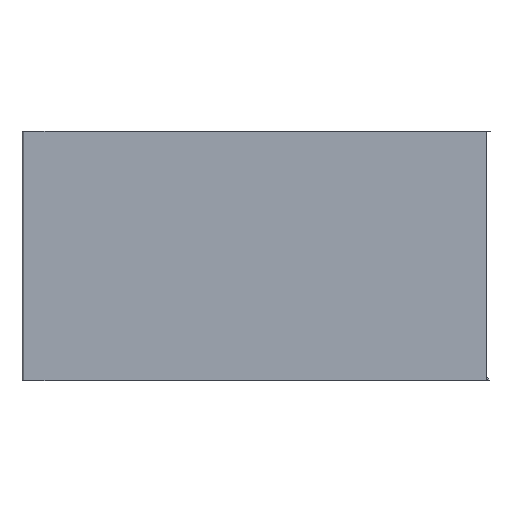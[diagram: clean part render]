
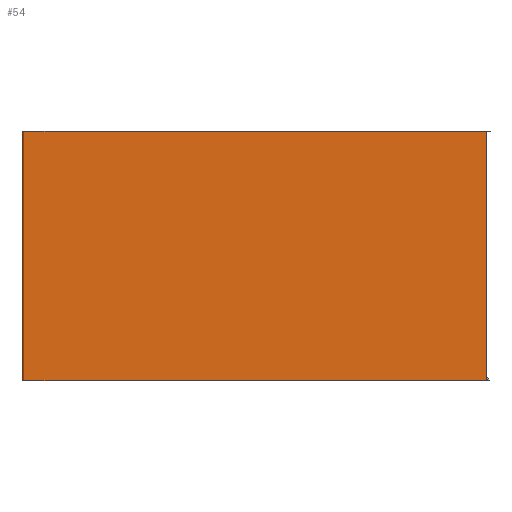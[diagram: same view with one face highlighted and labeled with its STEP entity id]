
A CAD part, top view. The second image highlights one B-rep face of the part: STEP entity #54.
In plain terms, the highlighted free-form (B-spline) face has degree [3, 1] with [16, 2] control points.
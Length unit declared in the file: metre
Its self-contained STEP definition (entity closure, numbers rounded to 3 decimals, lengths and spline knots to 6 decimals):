
#12=LINE('',#161,#13);
#13=VECTOR('',#68,1.);
#14=B_SPLINE_SURFACE_WITH_KNOTS('',3,1,((#108,#109),(#110,#111),(#112,#113),
(#114,#115),(#116,#117),(#118,#119),(#120,#121),(#122,#123),(#124,#125),
(#126,#127),(#128,#129),(#130,#131),(#132,#133),(#134,#135),(#136,#137),
(#138,#139)),.SURF_OF_LINEAR_EXTRUSION.,.F.,.F.,.F.,(4,1,1,1,1,1,1,1,1,
1,1,1,1,4),(2,2),(-5.885664,-5.42531,-5.195133,
-4.964956,-4.734779,-4.61969,-4.504602,
-4.447058,-4.389513,-4.331969,-4.274425,
-4.159336,-4.101792,-4.044248),(0.,1.),
 .UNSPECIFIED.);
#18=ORIENTED_EDGE('',*,*,#30,.T.);
#19=ORIENTED_EDGE('',*,*,#31,.T.);
#20=ORIENTED_EDGE('',*,*,#32,.T.);
#21=ORIENTED_EDGE('',*,*,#29,.F.);
#29=EDGE_CURVE('',#35,#34,#39,.T.);
#30=EDGE_CURVE('',#35,#36,#40,.T.);
#31=EDGE_CURVE('',#36,#37,#41,.T.);
#32=EDGE_CURVE('',#37,#34,#12,.T.);
#34=VERTEX_POINT('',#91);
#35=VERTEX_POINT('',#92);
#36=VERTEX_POINT('',#144);
#37=VERTEX_POINT('',#160);
#39=B_SPLINE_CURVE_WITH_KNOTS('',3,(#93,#94,#95,#96,#97,#98,#99,#100,#101,
#102,#103,#104,#105,#106,#107),.UNSPECIFIED.,.F.,.F.,(4,3,1,1,1,1,1,3,4),
(-5.885664,-4.405664,-4.361299,-4.319797,
-4.274686,-4.233183,-4.146569,-4.059956,
-4.044283),.UNSPECIFIED.);
#40=B_SPLINE_CURVE_WITH_KNOTS('',3,(#140,#141,#142,#143),.UNSPECIFIED.,
 .F.,.F.,(4,4),(0.,1.),.UNSPECIFIED.);
#41=B_SPLINE_CURVE_WITH_KNOTS('',3,(#145,#146,#147,#148,#149,#150,#151,
#152,#153,#154,#155,#156,#157,#158,#159),.UNSPECIFIED.,.F.,.F.,(4,3,1,1,
1,1,1,3,4),(-5.885664,-4.405664,-4.361299,-4.319797,
-4.274686,-4.233183,-4.146569,-4.059956,
-4.044248),.UNSPECIFIED.);
#44=EDGE_LOOP('',(#18,#19,#20,#21));
#48=FACE_BOUND('',#44,.T.);
#54=ADVANCED_FACE('',(#48),#14,.T.);
#68=DIRECTION('',(0.,-1.,0.));
#91=CARTESIAN_POINT('',(-0.03999,0.0055,-0.02835));
#92=CARTESIAN_POINT('',(-0.03851,0.0055,-0.028));
#93=CARTESIAN_POINT('',(-0.03851,0.0055,-0.028));
#94=CARTESIAN_POINT('',(-0.039003,0.0055,-0.028));
#95=CARTESIAN_POINT('',(-0.039497,0.0055,-0.028));
#96=CARTESIAN_POINT('',(-0.03999,0.0055,-0.028));
#97=CARTESIAN_POINT('',(-0.040004,0.0055,-0.028));
#98=CARTESIAN_POINT('',(-0.039998,0.0055,-0.028044));
#99=CARTESIAN_POINT('',(-0.040001,0.0055,-0.028079));
#100=CARTESIAN_POINT('',(-0.04,0.0055,-0.028126));
#101=CARTESIAN_POINT('',(-0.04,0.0055,-0.028181));
#102=CARTESIAN_POINT('',(-0.04,0.0055,-0.028254));
#103=CARTESIAN_POINT('',(-0.04,0.0055,-0.028311));
#104=CARTESIAN_POINT('',(-0.04,0.0055,-0.02834));
#105=CARTESIAN_POINT('',(-0.04,0.0055,-0.028345));
#106=CARTESIAN_POINT('',(-0.039995,0.0055,-0.02835));
#107=CARTESIAN_POINT('',(-0.03999,0.0055,-0.02835));
#108=CARTESIAN_POINT('',(-0.03851,0.0063,-0.028));
#109=CARTESIAN_POINT('',(-0.03851,0.0055,-0.028));
#110=CARTESIAN_POINT('',(-0.038663,0.0063,-0.028));
#111=CARTESIAN_POINT('',(-0.038663,0.0055,-0.028));
#112=CARTESIAN_POINT('',(-0.038894,0.0063,-0.028));
#113=CARTESIAN_POINT('',(-0.038894,0.0055,-0.028));
#114=CARTESIAN_POINT('',(-0.039201,0.0063,-0.028));
#115=CARTESIAN_POINT('',(-0.039201,0.0055,-0.028));
#116=CARTESIAN_POINT('',(-0.039431,0.0063,-0.028));
#117=CARTESIAN_POINT('',(-0.039431,0.0055,-0.028));
#118=CARTESIAN_POINT('',(-0.039623,0.0063,-0.028));
#119=CARTESIAN_POINT('',(-0.039623,0.0055,-0.028));
#120=CARTESIAN_POINT('',(-0.039776,0.0063,-0.028));
#121=CARTESIAN_POINT('',(-0.039776,0.0055,-0.028));
#122=CARTESIAN_POINT('',(-0.039873,0.0063,-0.027999));
#123=CARTESIAN_POINT('',(-0.039873,0.0055,-0.027999));
#124=CARTESIAN_POINT('',(-0.039947,0.0063,-0.028002));
#125=CARTESIAN_POINT('',(-0.039947,0.0055,-0.028002));
#126=CARTESIAN_POINT('',(-0.040013,0.0063,-0.027993));
#127=CARTESIAN_POINT('',(-0.040013,0.0055,-0.027993));
#128=CARTESIAN_POINT('',(-0.039996,0.0063,-0.028074));
#129=CARTESIAN_POINT('',(-0.039996,0.0055,-0.028074));
#130=CARTESIAN_POINT('',(-0.040002,0.0063,-0.028142));
#131=CARTESIAN_POINT('',(-0.040002,0.0055,-0.028142));
#132=CARTESIAN_POINT('',(-0.040002,0.0063,-0.028226));
#133=CARTESIAN_POINT('',(-0.040002,0.0055,-0.028226));
#134=CARTESIAN_POINT('',(-0.039996,0.0063,-0.028292));
#135=CARTESIAN_POINT('',(-0.039996,0.0055,-0.028292));
#136=CARTESIAN_POINT('',(-0.040009,0.0063,-0.02835));
#137=CARTESIAN_POINT('',(-0.040009,0.0055,-0.02835));
#138=CARTESIAN_POINT('',(-0.03999,0.0063,-0.02835));
#139=CARTESIAN_POINT('',(-0.03999,0.0055,-0.02835));
#140=CARTESIAN_POINT('',(-0.03851,0.0055,-0.028));
#141=CARTESIAN_POINT('',(-0.03851,0.005767,-0.028));
#142=CARTESIAN_POINT('',(-0.03851,0.006033,-0.028));
#143=CARTESIAN_POINT('',(-0.03851,0.0063,-0.028));
#144=CARTESIAN_POINT('',(-0.03851,0.0063,-0.028));
#145=CARTESIAN_POINT('',(-0.03851,0.0063,-0.028));
#146=CARTESIAN_POINT('',(-0.039003,0.0063,-0.028));
#147=CARTESIAN_POINT('',(-0.039497,0.0063,-0.028));
#148=CARTESIAN_POINT('',(-0.03999,0.0063,-0.028));
#149=CARTESIAN_POINT('',(-0.040004,0.0063,-0.028));
#150=CARTESIAN_POINT('',(-0.039998,0.0063,-0.028044));
#151=CARTESIAN_POINT('',(-0.040001,0.0063,-0.028079));
#152=CARTESIAN_POINT('',(-0.04,0.0063,-0.028126));
#153=CARTESIAN_POINT('',(-0.04,0.0063,-0.028181));
#154=CARTESIAN_POINT('',(-0.04,0.0063,-0.028254));
#155=CARTESIAN_POINT('',(-0.04,0.0063,-0.028311));
#156=CARTESIAN_POINT('',(-0.04,0.0063,-0.02834));
#157=CARTESIAN_POINT('',(-0.04,0.0063,-0.028345));
#158=CARTESIAN_POINT('',(-0.039995,0.0063,-0.02835));
#159=CARTESIAN_POINT('',(-0.03999,0.0063,-0.02835));
#160=CARTESIAN_POINT('',(-0.03999,0.0063,-0.02835));
#161=CARTESIAN_POINT('',(-0.03999,0.0063,-0.02835));
